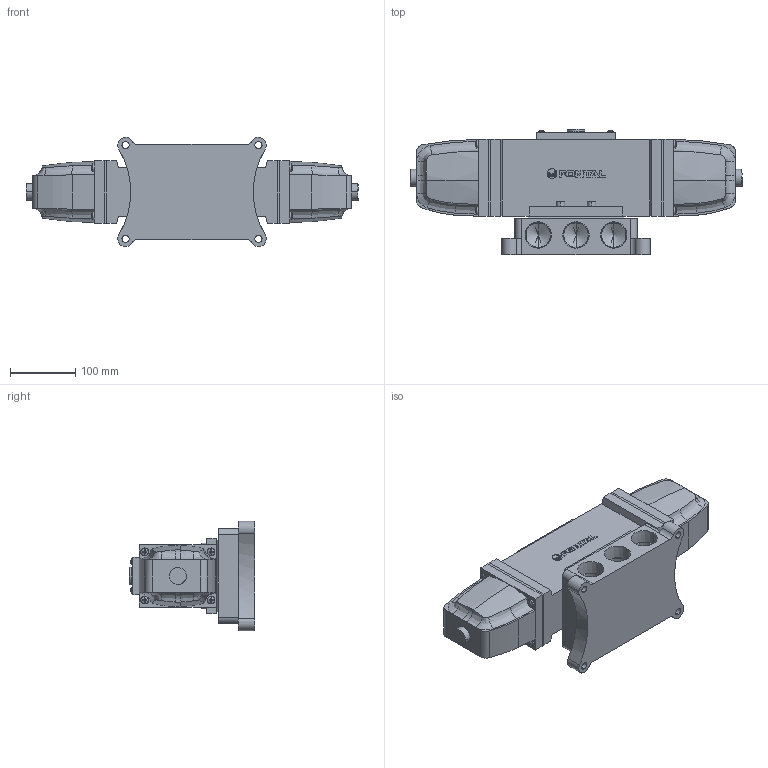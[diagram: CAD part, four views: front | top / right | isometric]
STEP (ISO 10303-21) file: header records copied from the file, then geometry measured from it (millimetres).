
FILE_DESCRIPTION (( 'STEP AP203' ), '1' );
FILE_NAME ('AD(DE)3425-10-##.STEP', '2016-03-09T03:04:03', ( 'Sam Lin' ), ( '' ), 'SwSTEP 2.0', 'SolidWorks 2013', '' );
FILE_SCHEMA (( 'CONFIG_CONTROL_DESIGN' ));
Length unit declared in the file: metre
Products named in the file (12): AS2425-1=3425; ISO 7045 - M5 x 16; AS2325-2=34; AS2325-3=34; ISO 7045 - M6 x 20; A25-MARK-2415; AS2425-4=34; AS2310-4; AS2425-10; AS2425-5; AD(DE)3425-10-##; ISO 4762 M8 x 30
Assembly tree (26 placements, depth 2):
  AD(DE)3425-10-##
    A25-MARK-2415
    AS2310-4
    AS2425-5
    ISO 4762 M8 x 30  x4
    AS2425-1=3425
    ISO 7045 - M5 x 16  x4
    AS2325-2=34  x2
    AS2325-3=34  x2
    ISO 7045 - M6 x 20  x8
    AS2425-4=34
    AS2425-10
Bounding box: 509.8 x 192.5 x 167.99 mm (x, y, z)
Volume: 5954246.3 mm3; surface area: 498496.7 mm2
Topology: 32 solids, 32 shells, 853 faces, 2138 edges, 1341 vertices
Faces by surface type: plane 438, cylinder 173, bspline 118, cone 108, torus 16
Entity records: 15657 total; most frequent: CARTESIAN_POINT 5057, ORIENTED_EDGE 1874, DIRECTION 1805, EDGE_CURVE 937, AXIS2_PLACEMENT_3D 646, VERTEX_POINT 610, LINE 513, VECTOR 513
